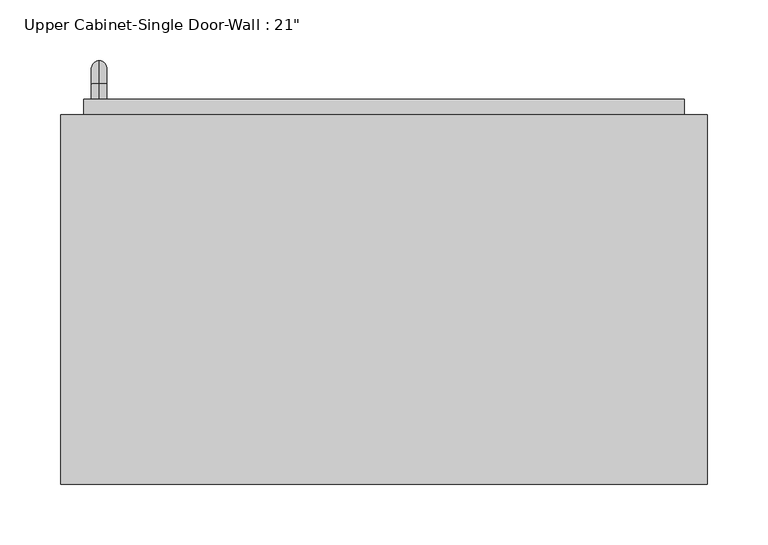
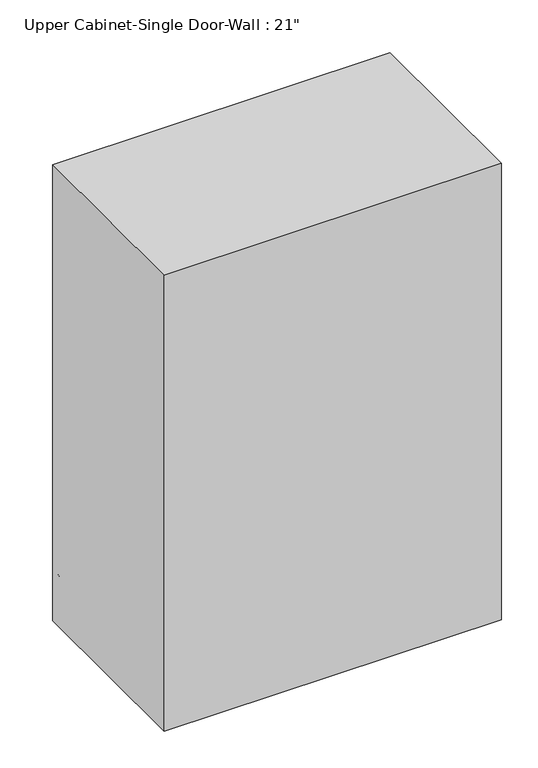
"""IFC4 building model written with IfcOpenShell, lengths in millimetres: furniture geometry."""

from ifc_helpers import new_model, si_unit, point, frame, origin, place, context, project, spatial, polyline, circle_curve, ellipse_curve, trimmed, outline, extrude, faceted_brep, source, transform, mapped, element, save
from ifc_brep_helpers import plane_surface, cylinder_surface, revolved_surface, advanced_brep


def furniture_3b401933(model_context):
    return source(origin(), model_context, "Body", "SolidModel", [
        faceted_brep([(-236.9288372, 25.4, 2133.6), (-236.9288372, 25.4, 1371.6), (296.4711628, 25.4, 1371.6), (296.4711628, 25.4, 2133.6), (-236.9288372, 330.2, 2133.6), (296.4711628, 330.2, 2133.6), (296.4711628, 330.2, 1371.6), (-236.9288372, 330.2, 1371.6), (-217.8788372, 330.2, 2114.55), (-217.8788372, 330.2, 1390.65), (277.4211628, 330.2, 1390.65), (277.4211628, 330.2, 2114.55), (277.4211628, 44.45, 2114.55), (-217.8788372, 44.45, 2114.55), (277.4211628, 44.45, 1390.65), (-217.8788372, 44.45, 1390.65)], [[[0, 1, 2, 3]], [[4, 5, 6, 7], [8, 9, 10, 11]], [[1, 0, 4, 7]], [[2, 1, 7, 6]], [[3, 2, 6, 5]], [[0, 3, 5, 4]], [[8, 11, 12, 13]], [[11, 10, 14, 12]], [[10, 9, 15, 14]], [[9, 8, 13, 15]], [[13, 12, 14, 15]]]),
        advanced_brep(
        [(-205.1788372, 342.9, 1517.65), (-205.1788372, 342.9, 1530.35), (-205.1788372, 355.6, 1517.65), (-205.1788372, 355.6, 1530.35), (-205.1788372, 374.65, 1511.3), (-205.1788372, 361.95, 1511.3), (-205.1788372, 361.95, 1435.1), (-205.1788372, 374.65, 1435.1), (-205.1788372, 355.6, 1416.05), (-205.1788372, 355.6, 1428.75), (-205.1788372, 342.9, 1428.75), (-205.1788372, 342.9, 1416.05)],
        [
            (0, 1, circle_curve(frame((-205.1788372, 342.9, 1524.0), z_axis=(0.0, -1.0, 0.0), x_axis=(0.0, 0.0, 1.0)), 6.35)),
            (1, 0, circle_curve(frame((-205.1788372, 342.9, 1524.0), z_axis=(0.0, -1.0, 0.0), x_axis=(0.0, 0.0, 1.0)), 6.35)),
            (0, 2),
            (2, 3, circle_curve(frame((-205.1788372, 355.6, 1524.0), z_axis=(0.0, -1.0, 0.0), x_axis=(0.0, 0.0, 1.0)), 6.35)),
            (3, 1),
            (3, 2, circle_curve(frame((-205.1788372, 355.6, 1524.0), z_axis=(0.0, -1.0, 0.0), x_axis=(0.0, 0.0, 1.0)), 6.35)),
            (4, 3, circle_curve(frame((-205.1788372, 355.6, 1511.3), z_axis=(1.0, 0.0, 0.0), x_axis=(0.0, 0.0, 1.0)), 19.05)),
            (2, 5, circle_curve(frame((-205.1788372, 355.6, 1511.3), z_axis=(-1.0, 0.0, 0.0), x_axis=(0.0, 0.0, 1.0)), 6.35)),
            (5, 4, circle_curve(frame((-205.1788372, 368.3, 1511.3), z_axis=(0.0, 0.0, 1.0), x_axis=(0.0, 1.0, 0.0)), 6.35)),
            (4, 5, circle_curve(frame((-205.1788372, 368.3, 1511.3), z_axis=(0.0, 0.0, 1.0), x_axis=(0.0, 1.0, 0.0)), 6.35)),
            (5, 6),
            (6, 7, circle_curve(frame((-205.1788372, 368.3, 1435.1), z_axis=(0.0, 0.0, 1.0), x_axis=(0.0, 1.0, 0.0)), 6.35)),
            (7, 4),
            (7, 6, circle_curve(frame((-205.1788372, 368.3, 1435.1), z_axis=(0.0, 0.0, 1.0), x_axis=(0.0, 1.0, 0.0)), 6.35)),
            (8, 7, circle_curve(frame((-205.1788372, 355.6, 1435.1), z_axis=(1.0, 0.0, 0.0), x_axis=(0.0, 1.0, 0.0)), 19.05)),
            (6, 9, circle_curve(frame((-205.1788372, 355.6, 1435.1), z_axis=(-1.0, 0.0, 0.0), x_axis=(0.0, 1.0, 0.0)), 6.35)),
            (9, 8, circle_curve(frame((-205.1788372, 355.6, 1422.4), z_axis=(0.0, 1.0, 0.0), x_axis=(0.0, 0.0, -1.0)), 6.35)),
            (8, 9, circle_curve(frame((-205.1788372, 355.6, 1422.4), z_axis=(0.0, 1.0, 0.0), x_axis=(0.0, 0.0, -1.0)), 6.35)),
            (10, 11, circle_curve(frame((-205.1788372, 342.9, 1422.4), z_axis=(0.0, -1.0, 0.0), x_axis=(0.0, 0.0, -1.0)), 6.35)),
            (11, 10, circle_curve(frame((-205.1788372, 342.9, 1422.4), z_axis=(0.0, -1.0, 0.0), x_axis=(0.0, 0.0, -1.0)), 6.35)),
            (9, 10),
            (11, 8),
        ],
        [
            plane_surface(frame((-211.5288372, 342.9, 1524.0), z_axis=(0.0, -1.0, 0.0), x_axis=(0.0, 0.0, 1.0))),
            cylinder_surface(frame((-205.1788372, 342.9, 1524.0), z_axis=(0.0, -1.0, 0.0), x_axis=(0.0, 0.0, 1.0)), 6.35),
            revolved_surface(trimmed(ellipse_curve(frame((-205.1788372, 355.6, 1524.0), z_axis=(0.0, -1.0, 0.0), x_axis=(0.0, 0.0, 1.0)), 6.35, 6.35), [point((-205.1788372, 355.6, 1517.65))], [point((-205.1788372, 355.6, 1530.35))], True, "CARTESIAN"), (-205.1788372, 355.6, 1511.3), (-1.0, 0.0, 0.0)),
            revolved_surface(trimmed(ellipse_curve(frame((-205.1788372, 355.6, 1524.0), z_axis=(0.0, -1.0, 0.0), x_axis=(0.0, 0.0, 1.0)), 6.35, 6.35), [point((-205.1788372, 355.6, 1530.35))], [point((-205.1788372, 355.6, 1517.65))], True, "CARTESIAN"), (-205.1788372, 355.6, 1511.3), (-1.0, 0.0, 0.0)),
            cylinder_surface(frame((-205.1788372, 368.3, 1511.3), z_axis=(0.0, 0.0, 1.0), x_axis=(0.0, 1.0, 0.0)), 6.35),
            revolved_surface(trimmed(ellipse_curve(frame((-205.1788372, 368.3, 1435.1), z_axis=(0.0, 0.0, 1.0), x_axis=(0.0, 1.0, 0.0)), 6.35, 6.35), [point((-205.1788372, 361.95, 1435.1))], [point((-205.1788372, 374.65, 1435.1))], True, "CARTESIAN"), (-205.1788372, 355.6, 1435.1), (-1.0, 0.0, 0.0)),
            revolved_surface(trimmed(ellipse_curve(frame((-205.1788372, 368.3, 1435.1), z_axis=(0.0, 0.0, 1.0), x_axis=(0.0, 1.0, 0.0)), 6.35, 6.35), [point((-205.1788372, 374.65, 1435.1))], [point((-205.1788372, 361.95, 1435.1))], True, "CARTESIAN"), (-205.1788372, 355.6, 1435.1), (-1.0, 0.0, 0.0)),
            plane_surface(frame((-211.5288372, 342.9, 1422.4), z_axis=(0.0, -1.0, 0.0), x_axis=(0.0, 0.0, -1.0))),
            cylinder_surface(frame((-205.1788372, 355.6, 1422.4), z_axis=(0.0, 1.0, 0.0), x_axis=(0.0, 0.0, -1.0)), 6.35),
        ],
        [
            (0, [[1, 2]]),
            (1, [[-1, 3, 4, 5]]),
            (1, [[-2, -5, 6, -3]]),
            (2, [[7, -4, 8, 9]]),
            (3, [[-8, -6, -7, 10]]),
            (4, [[-9, 11, 12, 13]]),
            (4, [[-10, -13, 14, -11]]),
            (5, [[15, -12, 16, 17]]),
            (6, [[-16, -14, -15, 18]]),
            (7, [[19, 20]]),
            (8, [[-17, 21, -20, 22]]),
            (8, [[-18, -22, -19, -21]]),
        ],
    ),
        extrude(outline(polyline([(-217.8788372, 342.9), (277.4211628, 342.9), (277.4211628, 311.15), (-217.8788372, 311.15), (-217.8788372, 342.9)])), frame((0.0, 0.0, 1390.65), z_axis=(0.0, 0.0, 1.0), x_axis=(1.0, 0.0, 0.0)), (0.0, 0.0, 1.0), 723.9),
    ])


if __name__ == "__main__":
    model = new_model("IFC4")
    model_context = context("Model", 3, world=origin())
    ifc_project = project(units=[si_unit("LENGTHUNIT", "METRE", prefix="MILLI")], contexts=[model_context])
    site = spatial("IfcSite", under=ifc_project)
    building = spatial("IfcBuilding", under=site)
    placement = place(None, origin())
    furniture_shape = furniture_3b401933(model_context)
    element("IfcFurniture", 1, ObjectType="Upper Cabinet-Single Door-Wall : 21\"", at=placement, inside=building, context=model_context, shape_type="MappedRepresentation", body=[
        mapped(furniture_shape, transform((0.0, 0.0, 0.0), x_axis=(1.0, 0.0, 0.0), y_axis=(0.0, 1.0, 0.0), z_axis=(0.0, 0.0, 1.0))),
    ])
    save(model, "model.ifc")
